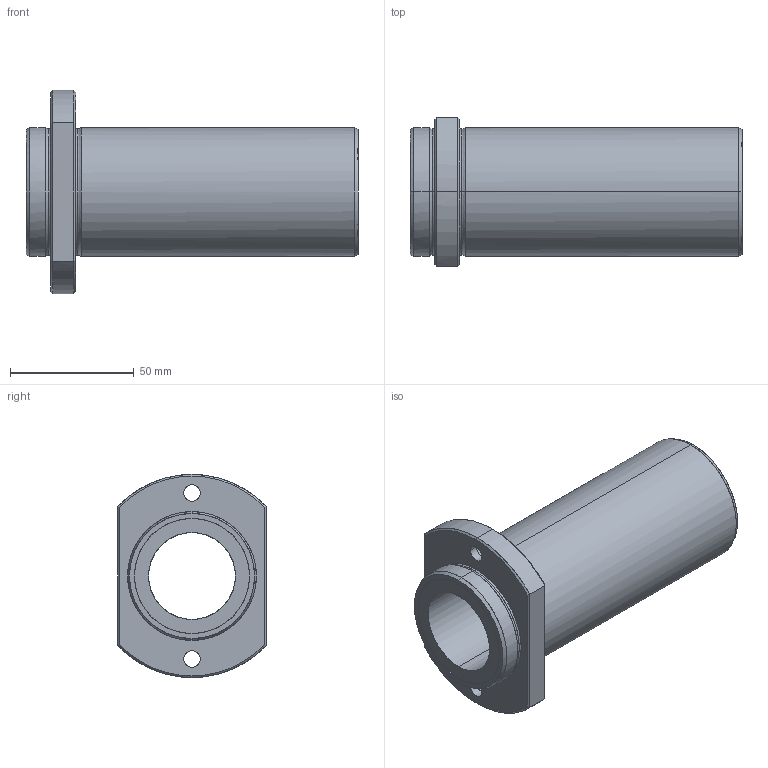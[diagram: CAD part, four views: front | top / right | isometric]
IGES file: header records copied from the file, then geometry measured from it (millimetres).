
Global section: file name: No Iges File Name specified; native system: AutoDesk Inventor R10; preprocessor: AutoDesk Inventor Iges Exporter R10; author: No Author specified; organization: No Organization specified; date: 20101209.174315; units: millimetre
Bounding box: 134 x 60 x 82 mm (x, y, z)
Surface area: 44611.3 mm2 (no closed solid volume)
Topology: 0 solids, 0 shells, 56 faces, 336 edges, 336 vertices
Faces by surface type: bspline 56
